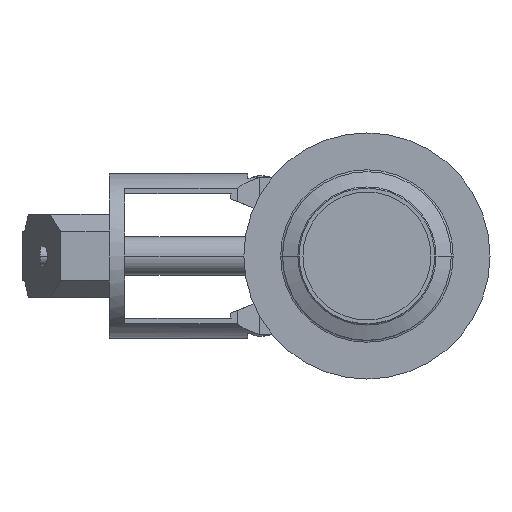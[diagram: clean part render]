
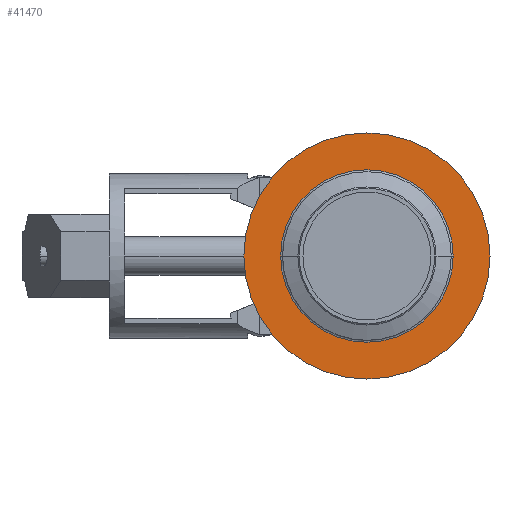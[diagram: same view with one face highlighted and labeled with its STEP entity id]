
A CAD part, left-side view. The second image highlights one B-rep face of the part: STEP entity #41470.
In plain terms, the highlighted planar face has unit normal (-1, 0, 0).
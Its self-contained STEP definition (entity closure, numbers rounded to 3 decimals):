
#40990=CARTESIAN_POINT('',(-346.151,168.831,
0.));
#41000=VERTEX_POINT('',#40990);
#41030=CARTESIAN_POINT('',(-346.151,105.331,0.));
#41040=DIRECTION('',(-1.,0.,0.));
#41050=DIRECTION('',(0.,1.,0.));
#41060=AXIS2_PLACEMENT_3D('',#41030,#41040,#41050);
#41070=CIRCLE('',#41060,63.5);
#41080=CARTESIAN_POINT('',(-346.151,41.831,0.));
#41090=VERTEX_POINT('',#41080);
#41100=EDGE_CURVE('',#41000,#41090,#41070,.T.);
#41220=CARTESIAN_POINT('',(-346.151,152.681,0.));
#41230=DIRECTION('',(1.,0.,0.));
#41240=DIRECTION('',(0.,-1.,0.));
#41250=AXIS2_PLACEMENT_3D('',#41220,#41230,#41240);
#41260=PLANE('',#41250);
#41270=ORIENTED_EDGE('',*,*,#41100,.T.);
#41280=EDGE_CURVE('',#41090,#41000,#41070,.T.);
#41290=ORIENTED_EDGE('',*,*,#41280,.T.);
#41300=EDGE_LOOP('',(#41290,#41270));
#41310=FACE_OUTER_BOUND('',#41300,.T.);
#41320=CARTESIAN_POINT('',(-346.151,105.331,0.));
#41330=DIRECTION('',(-1.,0.,0.));
#41340=DIRECTION('',(0.,1.,0.));
#41350=AXIS2_PLACEMENT_3D('',#41320,#41330,#41340);
#41360=CIRCLE('',#41350,44.5);
#41370=CARTESIAN_POINT('',(-346.151,60.831,0.));
#41380=VERTEX_POINT('',#41370);
#41390=CARTESIAN_POINT('',(-346.151,149.831,0.));
#41400=VERTEX_POINT('',#41390);
#41410=EDGE_CURVE('',#41380,#41400,#41360,.T.);
#41420=ORIENTED_EDGE('',*,*,#41410,.F.);
#41430=EDGE_CURVE('',#41400,#41380,#41360,.T.);
#41440=ORIENTED_EDGE('',*,*,#41430,.F.);
#41450=EDGE_LOOP('',(#41440,#41420));
#41460=FACE_BOUND('',#41450,.T.);
#41470=ADVANCED_FACE('',(#41310,#41460),#41260,.F.);
